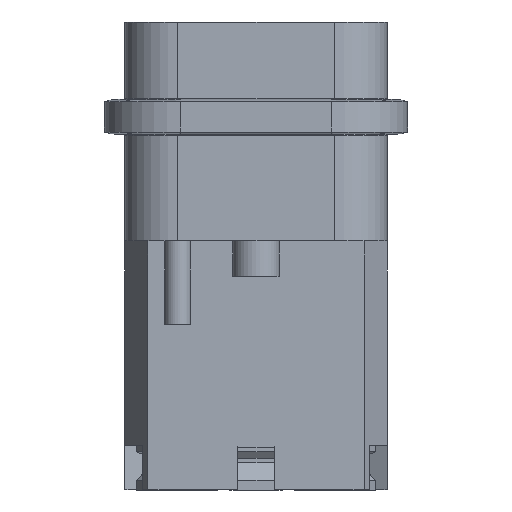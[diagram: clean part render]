
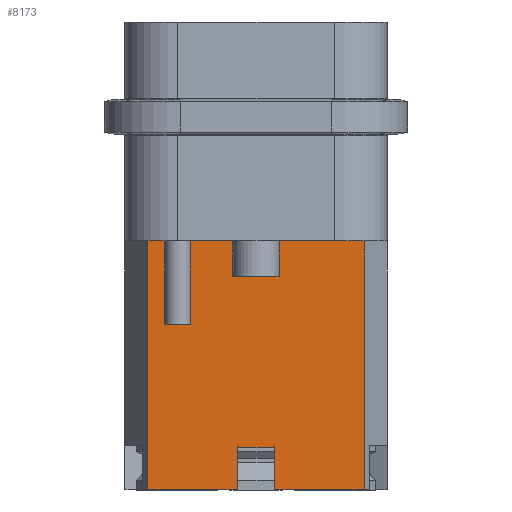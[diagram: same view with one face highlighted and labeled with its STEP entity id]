
A CAD part, left-side view. The second image highlights one B-rep face of the part: STEP entity #8173.
In plain terms, the highlighted planar face has unit normal (-1, 0, 0).
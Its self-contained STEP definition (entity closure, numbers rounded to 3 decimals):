
#7177=FACE_OUTER_BOUND('',#10301,.T.);
#8173=ADVANCED_FACE('',(#7177),#9221,.T.);
#9221=PLANE('',#32150);
#10301=EDGE_LOOP('',(#12917,#12918,#12919,#12920,#12921,#12922,#12923,#12924));
#12917=ORIENTED_EDGE('',*,*,#20261,.T.);
#12918=ORIENTED_EDGE('',*,*,#19233,.F.);
#12919=ORIENTED_EDGE('',*,*,#19674,.F.);
#12920=ORIENTED_EDGE('',*,*,#20217,.T.);
#12921=ORIENTED_EDGE('',*,*,#19661,.T.);
#12922=ORIENTED_EDGE('',*,*,#19463,.F.);
#12923=ORIENTED_EDGE('',*,*,#20269,.F.);
#12924=ORIENTED_EDGE('',*,*,#19936,.F.);
#17268=VERTEX_POINT('',#40155);
#17269=VERTEX_POINT('',#40157);
#17498=VERTEX_POINT('',#40615);
#17499=VERTEX_POINT('',#40617);
#17680=VERTEX_POINT('',#41250);
#17689=VERTEX_POINT('',#41273);
#17889=VERTEX_POINT('',#41878);
#17894=VERTEX_POINT('',#41888);
#19233=EDGE_CURVE('',#17268,#17269,#25046,.T.);
#19463=EDGE_CURVE('',#17498,#17499,#25241,.T.);
#19661=EDGE_CURVE('',#17680,#17499,#25356,.T.);
#19674=EDGE_CURVE('',#17689,#17268,#25369,.T.);
#19936=EDGE_CURVE('',#17894,#17889,#25598,.T.);
#20217=EDGE_CURVE('',#17689,#17680,#25804,.T.);
#20261=EDGE_CURVE('',#17894,#17269,#25834,.T.);
#20269=EDGE_CURVE('',#17889,#17498,#25840,.T.);
#25046=LINE('',#40156,#27364);
#25241=LINE('',#40616,#27559);
#25356=LINE('',#41249,#27674);
#25369=LINE('',#41274,#27687);
#25598=LINE('',#41889,#27916);
#25804=LINE('',#42588,#28122);
#25834=LINE('',#42681,#28152);
#25840=LINE('',#42696,#28158);
#27364=VECTOR('',#33386,1.);
#27559=VECTOR('',#33651,1.);
#27674=VECTOR('',#33800,1.);
#27687=VECTOR('',#33817,1.);
#27916=VECTOR('',#34204,1.);
#28122=VECTOR('',#34714,1.);
#28152=VECTOR('',#34804,1.);
#28158=VECTOR('',#34822,1.);
#32150=AXIS2_PLACEMENT_3D('',#42697,#34823,#34824);
#33386=DIRECTION('',(0.,1.,0.));
#33651=DIRECTION('',(0.,1.,0.));
#33800=DIRECTION('',(0.,0.,-1.));
#33817=DIRECTION('',(0.,0.,-1.));
#34204=DIRECTION('',(0.,-1.,0.));
#34714=DIRECTION('',(0.,-1.,0.));
#34804=DIRECTION('',(0.,0.,-1.));
#34822=DIRECTION('',(0.,0.,-1.));
#34823=DIRECTION('',(-1.,0.,0.));
#34824=DIRECTION('',(0.,1.,0.));
#40155=CARTESIAN_POINT('',(-13.2,1.55,-21.25));
#40156=CARTESIAN_POINT('',(-13.2,-9.233,-21.25));
#40157=CARTESIAN_POINT('',(-13.2,9.233,-21.25));
#40615=CARTESIAN_POINT('',(-13.2,-9.233,-21.25));
#40616=CARTESIAN_POINT('',(-13.2,-9.233,-21.25));
#40617=CARTESIAN_POINT('',(-13.2,-1.55,-21.25));
#41249=CARTESIAN_POINT('',(-13.2,-1.55,-22.648));
#41250=CARTESIAN_POINT('',(-13.2,-1.55,-17.65));
#41273=CARTESIAN_POINT('',(-13.2,1.55,-17.65));
#41274=CARTESIAN_POINT('',(-13.2,1.55,0.));
#41878=CARTESIAN_POINT('',(-13.2,-9.233,0.));
#41888=CARTESIAN_POINT('',(-13.2,9.233,0.));
#41889=CARTESIAN_POINT('',(-13.2,9.233,0.));
#42588=CARTESIAN_POINT('',(-13.2,-1.65,-17.65));
#42681=CARTESIAN_POINT('',(-13.2,9.233,0.));
#42696=CARTESIAN_POINT('',(-13.2,-9.233,0.));
#42697=CARTESIAN_POINT('',(-13.2,-9.233,0.));
